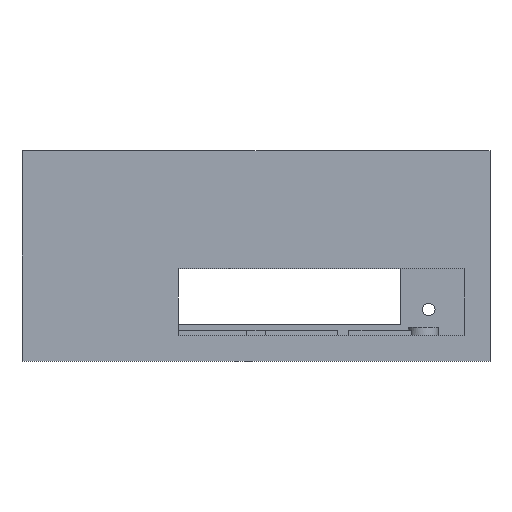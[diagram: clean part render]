
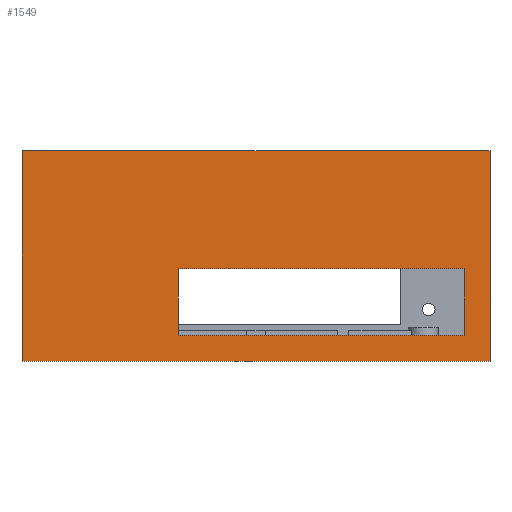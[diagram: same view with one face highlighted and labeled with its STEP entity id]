
A CAD part, front view. The second image highlights one B-rep face of the part: STEP entity #1549.
In plain terms, the highlighted planar face has unit normal (0, -1, 0).
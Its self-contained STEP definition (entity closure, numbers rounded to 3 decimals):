
#21 = EDGE_CURVE('',#22,#24,#26,.T.);
#22 = VERTEX_POINT('',#23);
#23 = CARTESIAN_POINT('',(0.,0.,0.));
#24 = VERTEX_POINT('',#25);
#25 = CARTESIAN_POINT('',(0.,0.,56.8));
#26 = SURFACE_CURVE('',#27,(#31,#43),.PCURVE_S1.);
#27 = LINE('',#28,#29);
#28 = CARTESIAN_POINT('',(0.,0.,0.));
#29 = VECTOR('',#30,1.);
#30 = DIRECTION('',(0.,0.,1.));
#31 = PCURVE('',#32,#37);
#32 = PLANE('',#33);
#33 = AXIS2_PLACEMENT_3D('',#34,#35,#36);
#34 = CARTESIAN_POINT('',(0.,0.,0.));
#35 = DIRECTION('',(1.,0.,0.));
#36 = DIRECTION('',(0.,0.,1.));
#37 = DEFINITIONAL_REPRESENTATION('',(#38),#42);
#38 = LINE('',#39,#40);
#39 = CARTESIAN_POINT('',(0.,0.));
#40 = VECTOR('',#41,1.);
#41 = DIRECTION('',(1.,0.));
#42 = ( GEOMETRIC_REPRESENTATION_CONTEXT(2) 
PARAMETRIC_REPRESENTATION_CONTEXT() REPRESENTATION_CONTEXT('2D SPACE',''
  ) );
#43 = PCURVE('',#44,#49);
#44 = PLANE('',#45);
#45 = AXIS2_PLACEMENT_3D('',#46,#47,#48);
#46 = CARTESIAN_POINT('',(0.,0.,0.));
#47 = DIRECTION('',(0.,1.,0.));
#48 = DIRECTION('',(0.,0.,1.));
#49 = DEFINITIONAL_REPRESENTATION('',(#50),#54);
#50 = LINE('',#51,#52);
#51 = CARTESIAN_POINT('',(0.,0.));
#52 = VECTOR('',#53,1.);
#53 = DIRECTION('',(1.,0.));
#54 = ( GEOMETRIC_REPRESENTATION_CONTEXT(2) 
PARAMETRIC_REPRESENTATION_CONTEXT() REPRESENTATION_CONTEXT('2D SPACE',''
  ) );
#72 = PLANE('',#73);
#73 = AXIS2_PLACEMENT_3D('',#74,#75,#76);
#74 = CARTESIAN_POINT('',(0.,0.,0.));
#75 = DIRECTION('',(0.,0.,1.));
#76 = DIRECTION('',(1.,0.,0.));
#126 = PLANE('',#127);
#127 = AXIS2_PLACEMENT_3D('',#128,#129,#130);
#128 = CARTESIAN_POINT('',(0.,0.,56.8));
#129 = DIRECTION('',(0.,0.,1.));
#130 = DIRECTION('',(1.,0.,0.));
#1549 = ADVANCED_FACE('',(#1550,#1625),#44,.F.);
#1550 = FACE_BOUND('',#1551,.F.);
#1551 = EDGE_LOOP('',(#1552,#1575,#1576,#1599));
#1552 = ORIENTED_EDGE('',*,*,#1553,.F.);
#1553 = EDGE_CURVE('',#22,#1554,#1556,.T.);
#1554 = VERTEX_POINT('',#1555);
#1555 = CARTESIAN_POINT('',(126.,0.,0.));
#1556 = SURFACE_CURVE('',#1557,(#1561,#1568),.PCURVE_S1.);
#1557 = LINE('',#1558,#1559);
#1558 = CARTESIAN_POINT('',(0.,0.,0.));
#1559 = VECTOR('',#1560,1.);
#1560 = DIRECTION('',(1.,0.,0.));
#1561 = PCURVE('',#44,#1562);
#1562 = DEFINITIONAL_REPRESENTATION('',(#1563),#1567);
#1563 = LINE('',#1564,#1565);
#1564 = CARTESIAN_POINT('',(0.,0.));
#1565 = VECTOR('',#1566,1.);
#1566 = DIRECTION('',(0.,1.));
#1567 = ( GEOMETRIC_REPRESENTATION_CONTEXT(2) 
PARAMETRIC_REPRESENTATION_CONTEXT() REPRESENTATION_CONTEXT('2D SPACE',''
  ) );
#1568 = PCURVE('',#72,#1569);
#1569 = DEFINITIONAL_REPRESENTATION('',(#1570),#1574);
#1570 = LINE('',#1571,#1572);
#1571 = CARTESIAN_POINT('',(0.,0.));
#1572 = VECTOR('',#1573,1.);
#1573 = DIRECTION('',(1.,0.));
#1574 = ( GEOMETRIC_REPRESENTATION_CONTEXT(2) 
PARAMETRIC_REPRESENTATION_CONTEXT() REPRESENTATION_CONTEXT('2D SPACE',''
  ) );
#1575 = ORIENTED_EDGE('',*,*,#21,.T.);
#1576 = ORIENTED_EDGE('',*,*,#1577,.F.);
#1577 = EDGE_CURVE('',#1578,#24,#1580,.T.);
#1578 = VERTEX_POINT('',#1579);
#1579 = CARTESIAN_POINT('',(126.,0.,56.8));
#1580 = SURFACE_CURVE('',#1581,(#1585,#1592),.PCURVE_S1.);
#1581 = LINE('',#1582,#1583);
#1582 = CARTESIAN_POINT('',(126.,0.,56.8));
#1583 = VECTOR('',#1584,1.);
#1584 = DIRECTION('',(-1.,0.,0.));
#1585 = PCURVE('',#44,#1586);
#1586 = DEFINITIONAL_REPRESENTATION('',(#1587),#1591);
#1587 = LINE('',#1588,#1589);
#1588 = CARTESIAN_POINT('',(56.8,126.));
#1589 = VECTOR('',#1590,1.);
#1590 = DIRECTION('',(0.,-1.));
#1591 = ( GEOMETRIC_REPRESENTATION_CONTEXT(2) 
PARAMETRIC_REPRESENTATION_CONTEXT() REPRESENTATION_CONTEXT('2D SPACE',''
  ) );
#1592 = PCURVE('',#126,#1593);
#1593 = DEFINITIONAL_REPRESENTATION('',(#1594),#1598);
#1594 = LINE('',#1595,#1596);
#1595 = CARTESIAN_POINT('',(126.,0.));
#1596 = VECTOR('',#1597,1.);
#1597 = DIRECTION('',(-1.,0.));
#1598 = ( GEOMETRIC_REPRESENTATION_CONTEXT(2) 
PARAMETRIC_REPRESENTATION_CONTEXT() REPRESENTATION_CONTEXT('2D SPACE',''
  ) );
#1599 = ORIENTED_EDGE('',*,*,#1600,.F.);
#1600 = EDGE_CURVE('',#1554,#1578,#1601,.T.);
#1601 = SURFACE_CURVE('',#1602,(#1606,#1613),.PCURVE_S1.);
#1602 = LINE('',#1603,#1604);
#1603 = CARTESIAN_POINT('',(126.,0.,0.));
#1604 = VECTOR('',#1605,1.);
#1605 = DIRECTION('',(0.,0.,1.));
#1606 = PCURVE('',#44,#1607);
#1607 = DEFINITIONAL_REPRESENTATION('',(#1608),#1612);
#1608 = LINE('',#1609,#1610);
#1609 = CARTESIAN_POINT('',(0.,126.));
#1610 = VECTOR('',#1611,1.);
#1611 = DIRECTION('',(1.,0.));
#1612 = ( GEOMETRIC_REPRESENTATION_CONTEXT(2) 
PARAMETRIC_REPRESENTATION_CONTEXT() REPRESENTATION_CONTEXT('2D SPACE',''
  ) );
#1613 = PCURVE('',#1614,#1619);
#1614 = PLANE('',#1615);
#1615 = AXIS2_PLACEMENT_3D('',#1616,#1617,#1618);
#1616 = CARTESIAN_POINT('',(126.,0.,0.));
#1617 = DIRECTION('',(1.,0.,0.));
#1618 = DIRECTION('',(0.,0.,1.));
#1619 = DEFINITIONAL_REPRESENTATION('',(#1620),#1624);
#1620 = LINE('',#1621,#1622);
#1621 = CARTESIAN_POINT('',(0.,0.));
#1622 = VECTOR('',#1623,1.);
#1623 = DIRECTION('',(1.,0.));
#1624 = ( GEOMETRIC_REPRESENTATION_CONTEXT(2) 
PARAMETRIC_REPRESENTATION_CONTEXT() REPRESENTATION_CONTEXT('2D SPACE',''
  ) );
#1625 = FACE_BOUND('',#1626,.F.);
#1626 = EDGE_LOOP('',(#1627,#1655,#1681,#1707));
#1627 = ORIENTED_EDGE('',*,*,#1628,.F.);
#1628 = EDGE_CURVE('',#1629,#1631,#1633,.T.);
#1629 = VERTEX_POINT('',#1630);
#1630 = CARTESIAN_POINT('',(42.,0.,25.));
#1631 = VERTEX_POINT('',#1632);
#1632 = CARTESIAN_POINT('',(119.,0.,25.));
#1633 = SURFACE_CURVE('',#1634,(#1638,#1644),.PCURVE_S1.);
#1634 = LINE('',#1635,#1636);
#1635 = CARTESIAN_POINT('',(21.,0.,25.));
#1636 = VECTOR('',#1637,1.);
#1637 = DIRECTION('',(1.,0.,0.));
#1638 = PCURVE('',#44,#1639);
#1639 = DEFINITIONAL_REPRESENTATION('',(#1640),#1643);
#1640 = B_SPLINE_CURVE_WITH_KNOTS('',1,(#1641,#1642),.UNSPECIFIED.,.F.,
  .F.,(2,2),(21.,98.),.PIECEWISE_BEZIER_KNOTS.);
#1641 = CARTESIAN_POINT('',(25.,42.));
#1642 = CARTESIAN_POINT('',(25.,119.));
#1643 = ( GEOMETRIC_REPRESENTATION_CONTEXT(2) 
PARAMETRIC_REPRESENTATION_CONTEXT() REPRESENTATION_CONTEXT('2D SPACE',''
  ) );
#1644 = PCURVE('',#1645,#1650);
#1645 = PLANE('',#1646);
#1646 = AXIS2_PLACEMENT_3D('',#1647,#1648,#1649);
#1647 = CARTESIAN_POINT('',(42.,-1.,25.));
#1648 = DIRECTION('',(0.,0.,1.));
#1649 = DIRECTION('',(1.,0.,0.));
#1650 = DEFINITIONAL_REPRESENTATION('',(#1651),#1654);
#1651 = B_SPLINE_CURVE_WITH_KNOTS('',1,(#1652,#1653),.UNSPECIFIED.,.F.,
  .F.,(2,2),(21.,98.),.PIECEWISE_BEZIER_KNOTS.);
#1652 = CARTESIAN_POINT('',(0.,1.));
#1653 = CARTESIAN_POINT('',(77.,1.));
#1654 = ( GEOMETRIC_REPRESENTATION_CONTEXT(2) 
PARAMETRIC_REPRESENTATION_CONTEXT() REPRESENTATION_CONTEXT('2D SPACE',''
  ) );
#1655 = ORIENTED_EDGE('',*,*,#1656,.T.);
#1656 = EDGE_CURVE('',#1629,#1657,#1659,.T.);
#1657 = VERTEX_POINT('',#1658);
#1658 = CARTESIAN_POINT('',(42.,0.,7.));
#1659 = SURFACE_CURVE('',#1660,(#1664,#1670),.PCURVE_S1.);
#1660 = LINE('',#1661,#1662);
#1661 = CARTESIAN_POINT('',(42.,0.,3.5));
#1662 = VECTOR('',#1663,1.);
#1663 = DIRECTION('',(0.,0.,-1.));
#1664 = PCURVE('',#44,#1665);
#1665 = DEFINITIONAL_REPRESENTATION('',(#1666),#1669);
#1666 = B_SPLINE_CURVE_WITH_KNOTS('',1,(#1667,#1668),.UNSPECIFIED.,.F.,
  .F.,(2,2),(-21.5,-3.5),.PIECEWISE_BEZIER_KNOTS.);
#1667 = CARTESIAN_POINT('',(25.,42.));
#1668 = CARTESIAN_POINT('',(7.,42.));
#1669 = ( GEOMETRIC_REPRESENTATION_CONTEXT(2) 
PARAMETRIC_REPRESENTATION_CONTEXT() REPRESENTATION_CONTEXT('2D SPACE',''
  ) );
#1670 = PCURVE('',#1671,#1676);
#1671 = PLANE('',#1672);
#1672 = AXIS2_PLACEMENT_3D('',#1673,#1674,#1675);
#1673 = CARTESIAN_POINT('',(42.,-1.,7.));
#1674 = DIRECTION('',(1.,0.,0.));
#1675 = DIRECTION('',(0.,0.,1.));
#1676 = DEFINITIONAL_REPRESENTATION('',(#1677),#1680);
#1677 = B_SPLINE_CURVE_WITH_KNOTS('',1,(#1678,#1679),.UNSPECIFIED.,.F.,
  .F.,(2,2),(-21.5,-3.5),.PIECEWISE_BEZIER_KNOTS.);
#1678 = CARTESIAN_POINT('',(18.,-1.));
#1679 = CARTESIAN_POINT('',(0.,-1.));
#1680 = ( GEOMETRIC_REPRESENTATION_CONTEXT(2) 
PARAMETRIC_REPRESENTATION_CONTEXT() REPRESENTATION_CONTEXT('2D SPACE',''
  ) );
#1681 = ORIENTED_EDGE('',*,*,#1682,.T.);
#1682 = EDGE_CURVE('',#1657,#1683,#1685,.T.);
#1683 = VERTEX_POINT('',#1684);
#1684 = CARTESIAN_POINT('',(119.,0.,7.));
#1685 = SURFACE_CURVE('',#1686,(#1690,#1696),.PCURVE_S1.);
#1686 = LINE('',#1687,#1688);
#1687 = CARTESIAN_POINT('',(21.,0.,7.));
#1688 = VECTOR('',#1689,1.);
#1689 = DIRECTION('',(1.,0.,0.));
#1690 = PCURVE('',#44,#1691);
#1691 = DEFINITIONAL_REPRESENTATION('',(#1692),#1695);
#1692 = B_SPLINE_CURVE_WITH_KNOTS('',1,(#1693,#1694),.UNSPECIFIED.,.F.,
  .F.,(2,2),(21.,98.),.PIECEWISE_BEZIER_KNOTS.);
#1693 = CARTESIAN_POINT('',(7.,42.));
#1694 = CARTESIAN_POINT('',(7.,119.));
#1695 = ( GEOMETRIC_REPRESENTATION_CONTEXT(2) 
PARAMETRIC_REPRESENTATION_CONTEXT() REPRESENTATION_CONTEXT('2D SPACE',''
  ) );
#1696 = PCURVE('',#1697,#1702);
#1697 = PLANE('',#1698);
#1698 = AXIS2_PLACEMENT_3D('',#1699,#1700,#1701);
#1699 = CARTESIAN_POINT('',(42.,-1.,7.));
#1700 = DIRECTION('',(0.,0.,1.));
#1701 = DIRECTION('',(1.,0.,0.));
#1702 = DEFINITIONAL_REPRESENTATION('',(#1703),#1706);
#1703 = B_SPLINE_CURVE_WITH_KNOTS('',1,(#1704,#1705),.UNSPECIFIED.,.F.,
  .F.,(2,2),(21.,98.),.PIECEWISE_BEZIER_KNOTS.);
#1704 = CARTESIAN_POINT('',(0.,1.));
#1705 = CARTESIAN_POINT('',(77.,1.));
#1706 = ( GEOMETRIC_REPRESENTATION_CONTEXT(2) 
PARAMETRIC_REPRESENTATION_CONTEXT() REPRESENTATION_CONTEXT('2D SPACE',''
  ) );
#1707 = ORIENTED_EDGE('',*,*,#1708,.F.);
#1708 = EDGE_CURVE('',#1631,#1683,#1709,.T.);
#1709 = SURFACE_CURVE('',#1710,(#1714,#1720),.PCURVE_S1.);
#1710 = LINE('',#1711,#1712);
#1711 = CARTESIAN_POINT('',(119.,0.,3.5));
#1712 = VECTOR('',#1713,1.);
#1713 = DIRECTION('',(0.,0.,-1.));
#1714 = PCURVE('',#44,#1715);
#1715 = DEFINITIONAL_REPRESENTATION('',(#1716),#1719);
#1716 = B_SPLINE_CURVE_WITH_KNOTS('',1,(#1717,#1718),.UNSPECIFIED.,.F.,
  .F.,(2,2),(-21.5,-3.5),.PIECEWISE_BEZIER_KNOTS.);
#1717 = CARTESIAN_POINT('',(25.,119.));
#1718 = CARTESIAN_POINT('',(7.,119.));
#1719 = ( GEOMETRIC_REPRESENTATION_CONTEXT(2) 
PARAMETRIC_REPRESENTATION_CONTEXT() REPRESENTATION_CONTEXT('2D SPACE',''
  ) );
#1720 = PCURVE('',#1721,#1726);
#1721 = PLANE('',#1722);
#1722 = AXIS2_PLACEMENT_3D('',#1723,#1724,#1725);
#1723 = CARTESIAN_POINT('',(119.,-1.,7.));
#1724 = DIRECTION('',(1.,0.,0.));
#1725 = DIRECTION('',(0.,0.,1.));
#1726 = DEFINITIONAL_REPRESENTATION('',(#1727),#1730);
#1727 = B_SPLINE_CURVE_WITH_KNOTS('',1,(#1728,#1729),.UNSPECIFIED.,.F.,
  .F.,(2,2),(-21.5,-3.5),.PIECEWISE_BEZIER_KNOTS.);
#1728 = CARTESIAN_POINT('',(18.,-1.));
#1729 = CARTESIAN_POINT('',(0.,-1.));
#1730 = ( GEOMETRIC_REPRESENTATION_CONTEXT(2) 
PARAMETRIC_REPRESENTATION_CONTEXT() REPRESENTATION_CONTEXT('2D SPACE',''
  ) );
